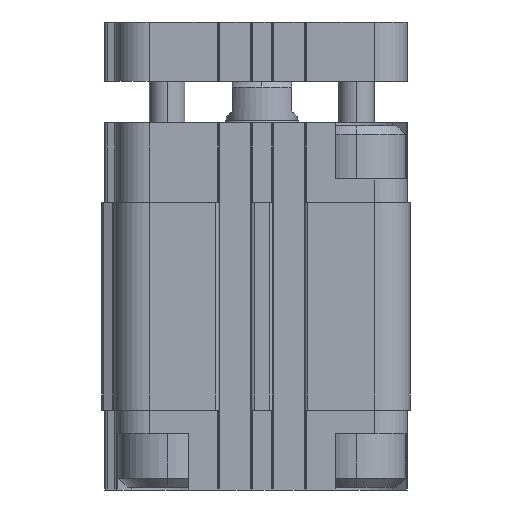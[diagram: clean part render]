
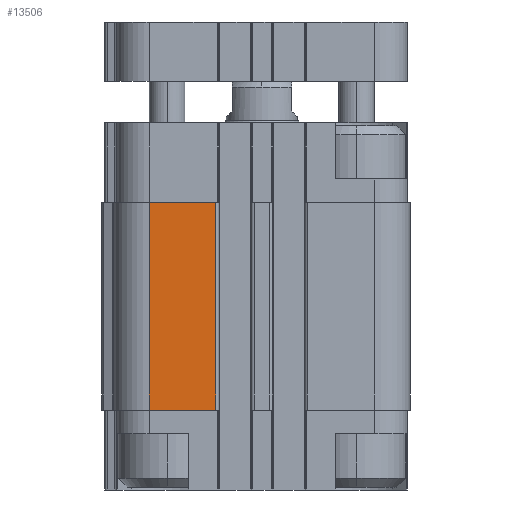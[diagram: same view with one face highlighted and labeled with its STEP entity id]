
A CAD part, left-side view. The second image highlights one B-rep face of the part: STEP entity #13506.
In plain terms, the highlighted planar face has unit normal (-1, 0, 0).
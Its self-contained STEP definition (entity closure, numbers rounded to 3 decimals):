
#800 = EDGE_LOOP ( 'NONE', ( #2681, #2682, #2683, #2684 ) ) ;
#2681 = ORIENTED_EDGE ( 'NONE', *, *, #19013, .T. ) ;
#2682 = ORIENTED_EDGE ( 'NONE', *, *, #19015, .F. ) ;
#2683 = ORIENTED_EDGE ( 'NONE', *, *, #19010, .F. ) ;
#2684 = ORIENTED_EDGE ( 'NONE', *, *, #18943, .F. ) ;
#7455 = AXIS2_PLACEMENT_3D ( 'NONE', #8188, #8196, #8197 ) ;
#8188 = CARTESIAN_POINT ( 'NONE',  ( -25., 7.775, 13.5 ) ) ;
#8193 = PLANE ( 'NONE',  #7455 ) ;
#8196 = DIRECTION ( 'NONE',  ( 1., 0., 0. ) ) ;
#8197 = DIRECTION ( 'NONE',  ( 0., 1., 0. ) ) ;
#8599 = CARTESIAN_POINT ( 'NONE',  ( -25., 7.775, 13.5 ) ) ;
#8604 = CARTESIAN_POINT ( 'NONE',  ( -25., 19., 13.5 ) ) ;
#8637 = CARTESIAN_POINT ( 'NONE',  ( -25., 19., 48.5 ) ) ;
#8648 = CARTESIAN_POINT ( 'NONE',  ( -25., 7.775, 48.5 ) ) ;
#8825 = FACE_OUTER_BOUND ( 'NONE', #800, .T. ) ;
#9359 = LINE ( 'NONE', #11775, #9363 ) ;
#9363 = VECTOR ( 'NONE', #11769, 1000. ) ;
#9499 = LINE ( 'NONE', #11962, #9505 ) ;
#9503 = LINE ( 'NONE', #11965, #9515 ) ;
#9505 = VECTOR ( 'NONE', #11964, 1000. ) ;
#9507 = LINE ( 'NONE', #11963, #9511 ) ;
#9511 = VECTOR ( 'NONE', #11959, 1000. ) ;
#9515 = VECTOR ( 'NONE', #11970, 1000. ) ;
#11769 = DIRECTION ( 'NONE',  ( 0., 1., 0. ) ) ;
#11775 = CARTESIAN_POINT ( 'NONE',  ( -25., 13.387, 13.5 ) ) ;
#11959 = DIRECTION ( 'NONE',  ( 0., 0., 1. ) ) ;
#11962 = CARTESIAN_POINT ( 'NONE',  ( -25., 19., 31. ) ) ;
#11963 = CARTESIAN_POINT ( 'NONE',  ( -25., 7.775, 31. ) ) ;
#11964 = DIRECTION ( 'NONE',  ( 0., 0., 1. ) ) ;
#11965 = CARTESIAN_POINT ( 'NONE',  ( -25., 17.137, 48.5 ) ) ;
#11970 = DIRECTION ( 'NONE',  ( 0., -1., 0. ) ) ;
#13506 = ADVANCED_FACE ( 'NONE', ( #8825 ), #8193, .F. ) ;
#14329 = VERTEX_POINT ( 'NONE', #8599 ) ;
#14334 = VERTEX_POINT ( 'NONE', #8604 ) ;
#14367 = VERTEX_POINT ( 'NONE', #8637 ) ;
#14378 = VERTEX_POINT ( 'NONE', #8648 ) ;
#18943 = EDGE_CURVE ( 'NONE', #14329, #14334, #9359, .T. ) ;
#19010 = EDGE_CURVE ( 'NONE', #14334, #14367, #9499, .T. ) ;
#19013 = EDGE_CURVE ( 'NONE', #14329, #14378, #9507, .T. ) ;
#19015 = EDGE_CURVE ( 'NONE', #14367, #14378, #9503, .T. ) ;
